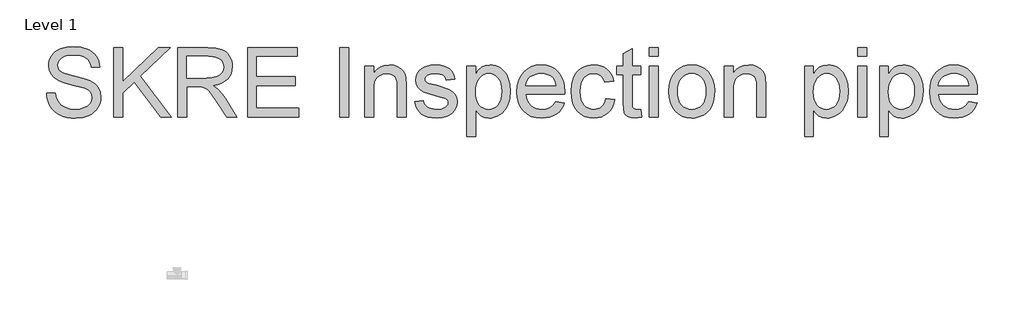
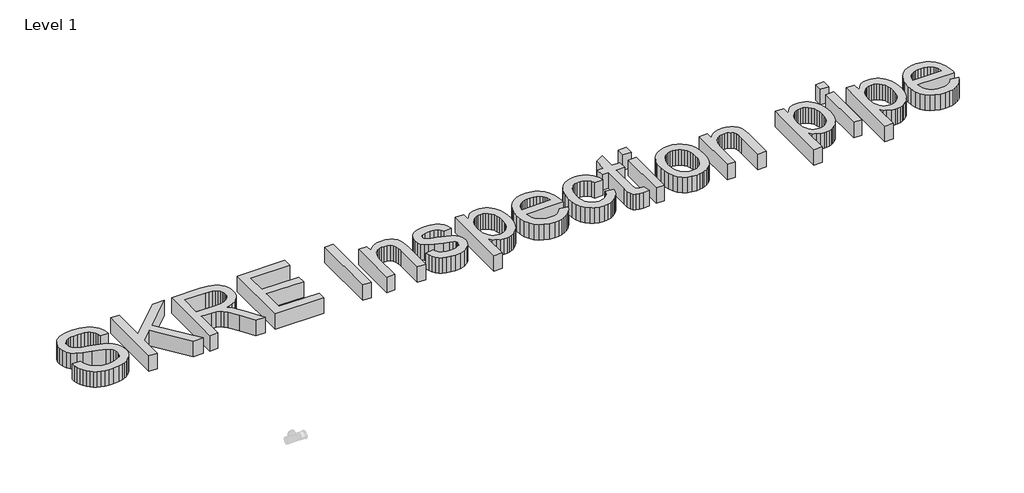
# One storey, part 19 of 29: 1 proxy.
"""IFC4 building model written with IfcOpenShell, lengths in millimetres."""

from ifc_helpers import new_model, si_unit, origin, origin_with_axes, place, context, project, spatial, polyline, outline, extrude, element, save

model = new_model("IFC4")

# Units and contexts
model_context = context("Model", 3, world=origin())
ifc_project = project(units=[si_unit("LENGTHUNIT", "METRE", prefix="MILLI")], contexts=[model_context])

# Site, building, storey
site = spatial("IfcSite", under=ifc_project)
building = spatial("IfcBuilding", under=site)
storey = spatial("IfcBuildingStorey", under=building, Name="Level 1", Elevation=0.0)

# Proxy
placement = place(None, origin())
element("IfcBuildingElementProxy", 1, Name="600mm Arial", ObjectType="600mm Arial", at=placement, inside=storey, context=model_context, shape_type="SweptSolid", body=[
    extrude(outline(polyline([(-4588.4302345, 30340.0821647), (-4513.0880019, 30340.0821647), (-4504.442775, 30298.2723759), (-4488.8077902, 30264.6663557), (-4464.4172139, 30237.994911), (-4429.5052126, 30216.9888491), (-4386.8309011, 30203.3588212), (-4339.1533946, 30198.8154785), (-4297.1780589, 30202.2551752), (-4260.4266476, 30212.5742651), (-4230.6466001, 30228.9082257), (-4209.5853559, 30250.3925342), (-4197.0589739, 30275.059022), (-4192.8835133, 30300.9395204), (-4196.0105102, 30326.1578311), (-4205.3915011, 30347.9548394), (-4224.4477885, 30366.5512742), (-4256.6006748, 30382.1678649), (-4366.3030858, 30410.9362369), (-4438.3159864, 30429.9741302), (-4484.3932063, 30448.0923184), (-4521.8987757, 30473.4393879), (-4548.4782498, 30504.1575345), (-4564.3155697, 30539.5845706), (-4569.5946763, 30579.0583087), (-4567.9622, 30601.4945119), (-4563.0647709, 30623.1857541), (-4554.9023892, 30644.1320352), (-4543.4750547, 30664.3333552), (-4528.9115262, 30682.9665783), (-4511.3405624, 30699.2085684), (-4490.7621633, 30713.0593255), (-4467.1763289, 30724.5188496), (-4414.1645334, 30739.9147111), (-4355.4873552, 30745.046665), (-4291.9173464, 30739.6755878), (-4236.2935887, 30723.5623564), (-4211.9581947, 30711.5602063), (-4190.6026449, 30697.0380646), (-4172.2269393, 30679.9959312), (-4156.8310778, 30660.4338061), (-4144.5346221, 30638.9219064), (-4135.4571338, 30616.0304492), (-4129.5986131, 30591.7594346), (-4126.9590597, 30566.1088625), (-4202.3012924, 30566.1088625), (-4207.3412757, 30590.1499509), (-4216.1336554, 30611.0640423), (-4228.6784314, 30628.8511368), (-4244.9756038, 30643.5112343), (-4265.3286752, 30654.9707584), (-4290.0411482, 30663.1561328), (-4319.1130229, 30668.0673575), (-4352.5442992, 30669.7044323), (-4387.0424333, 30668.0857516), (-4416.5189782, 30663.2297092), (-4440.9739338, 30655.1363053), (-4460.4073002, 30643.8055399), (-4475.2145505, 30630.184709), (-4485.7911578, 30615.2211089), (-4492.1371223, 30598.9147394), (-4494.2524437, 30581.2656007), (-4492.7533246, 30566.0812713), (-4488.2559672, 30552.3132877), (-4480.7603716, 30539.9616497), (-4470.2665376, 30529.0263574), (-4453.7486361, 30518.6704792), (-4427.739379, 30508.2042365), (-4347.2467985, 30486.9406571), (-4264.1790439, 30466.7439356), (-4213.9263634, 30449.122388), (-4170.9761405, 30421.7887558), (-4154.3708669, 30405.7215097), (-4141.012152, 30388.0539768), (-4130.7436458, 30368.8781278), (-4123.4089985, 30348.2859332), (-4117.5412807, 30302.8525067), (-4119.2289393, 30279.2850664), (-4124.2919153, 30256.4074049), (-4132.7302085, 30234.219522), (-4144.5438191, 30212.7214179), (-4159.5258134, 30192.7454256), (-4177.4692577, 30175.123878), (-4198.3741521, 30159.8567752), (-4222.2404965, 30146.9441172), (-4248.3739137, 30136.675611), (-4276.0800265, 30129.3409637), (-4336.2103386, 30123.4732459), (-4374.7505761, 30125.0551385), (-4410.0258609, 30129.8008162), (-4442.036193, 30137.7102791), (-4470.7815724, 30148.7835272), (-4496.4367431, 30163.0389545), (-4519.1764489, 30180.4949552), (-4539.0006899, 30201.1515292), (-4555.9094661, 30225.0086766), (-4569.530297, 30251.2938451), (-4579.490702, 30279.2344827), (-4585.7906812, 30308.8305892), (-4588.4302345, 30340.0821647)])), origin_with_axes(), (0.0, 0.0, 1.0), 150.0),
    extrude(outline(polyline([(-4004.5279318, 30132.891025), (-4004.5279318, 30735.6288859), (-3929.1856991, 30735.6288859), (-3929.1856991, 30440.5875257), (-3620.1648232, 30735.6288859), (-3514.8034198, 30735.6288859), (-3774.2338028, 30487.8235739), (-3505.3856407, 30132.891025), (-3597.5032923, 30132.891025), (-3827.6502685, 30436.9087058), (-3929.1856991, 30340.0821647), (-3929.1856991, 30132.891025), (-4004.5279318, 30132.891025)])), origin_with_axes(), (0.0, 0.0, 1.0), 150.0),
    extrude(outline(polyline([(-3448.8789662, 30132.891025), (-3448.8789662, 30735.6288859), (-3189.1542776, 30735.6288859), (-3119.3486691, 30731.5637898), (-3068.5625596, 30719.3685017), (-3048.9636463, 30709.6748111), (-3031.4432663, 30696.8541236), (-3016.0014196, 30680.9064391), (-3002.6381061, 30661.8317576), (-2991.8545651, 30640.6555503), (-2984.1520358, 30618.4032881), (-2979.5305183, 30595.0749711), (-2977.9900124, 30570.6705992), (-2980.5421938, 30539.7133293), (-2988.1987378, 30511.2944452), (-3000.9596445, 30485.4139469), (-3018.8249139, 30462.0718343), (-3042.0244722, 30442.0130685), (-3070.7882457, 30425.9826105), (-3105.1162344, 30413.9804604), (-3145.0084382, 30406.0066182), (-3120.1764035, 30389.7830222), (-3102.186974, 30373.7801554), (-3071.3216746, 30337.1758969), (-3041.1185628, 30296.2306308), (-2940.6132017, 30132.891025), (-3028.1691166, 30132.891025), (-3106.6015579, 30257.8237505), (-3163.2553852, 30340.5236231), (-3184.3166294, 30364.6382878), (-3203.0602171, 30379.5926909), (-3238.8919234, 30393.9400888), (-3282.5963044, 30396.5888391), (-3373.5367336, 30396.5888391), (-3373.5367336, 30132.891025), (-3448.8789662, 30132.891025)]), holes=[polyline([(-3373.5367336, 30471.9310717), (-3204.899627, 30471.9310717), (-3156.4679624, 30474.5982162), (-3118.8888166, 30482.5996496), (-3090.5986911, 30496.4688008), (-3070.0340876, 30516.7390987), (-3057.5077057, 30541.2584337), (-3053.332245, 30567.8746961), (-3055.3234063, 30587.1425156), (-3061.2968902, 30604.6261074), (-3071.2526967, 30620.3254715), (-3085.1908258, 30634.240608), (-3103.4331742, 30645.6357528), (-3126.3016388, 30653.7751419), (-3153.7962194, 30658.6587754), (-3185.9169161, 30660.2866533), (-3373.5367336, 30660.2866533), (-3373.5367336, 30471.9310717)])]), origin_with_axes(), (0.0, 0.0, 1.0), 150.0),
    extrude(outline(polyline([(-2846.1411053, 30132.891025), (-2846.1411053, 30735.6288859), (-2412.9232678, 30735.6288859), (-2412.9232678, 30660.2866533), (-2770.7988727, 30660.2866533), (-2770.7988727, 30481.3488508), (-2431.758826, 30481.3488508), (-2431.758826, 30406.0066182), (-2770.7988727, 30406.0066182), (-2770.7988727, 30208.2332576), (-2403.5054887, 30208.2332576), (-2403.5054887, 30132.891025), (-2846.1411053, 30132.891025)])), origin_with_axes(), (0.0, 0.0, 1.0), 150.0),
    extrude(outline(polyline([(-2045.6298838, 30132.891025), (-2045.6298838, 30735.6288859), (-1970.2876512, 30735.6288859), (-1970.2876512, 30132.891025), (-2045.6298838, 30132.891025)])), origin_with_axes(), (0.0, 0.0, 1.0), 150.0),
    extrude(outline(polyline([(-1829.0209651, 30132.891025), (-1829.0209651, 30575.5266416), (-1753.6787325, 30575.5266416), (-1753.6787325, 30513.7224664), (-1727.5039285, 30544.8820714), (-1696.068412, 30567.1389321), (-1659.372183, 30580.4930485), (-1617.4152415, 30584.9444207), (-1580.277554, 30581.3575712), (-1546.2668636, 30570.5970228), (-1517.9031618, 30554.0055449), (-1497.7064402, 30532.9259065), (-1484.0028359, 30507.4132902), (-1475.1184857, 30477.5228781), (-1471.1453602, 30404.682243), (-1471.1453602, 30132.891025), (-1546.4875928, 30132.891025), (-1546.4875928, 30394.5286999), (-1548.6580966, 30433.4874032), (-1555.1696079, 30461.1889175), (-1567.180955, 30481.0361511), (-1585.8509663, 30496.4320126), (-1609.7816901, 30506.3096442), (-1637.5751748, 30509.602188), (-1660.4528364, 30507.753581), (-1681.7026201, 30502.2077599), (-1701.324526, 30492.9647248), (-1719.3185541, 30480.0244756), (-1734.3511321, 30461.9154844), (-1745.0886879, 30437.1662232), (-1751.5312213, 30405.776692), (-1753.6787325, 30367.7468907), (-1753.6787325, 30132.891025), (-1829.0209651, 30132.891025)])), origin_with_axes(), (0.0, 0.0, 1.0), 150.0),
    extrude(outline(polyline([(-1395.8031276, 30264.739932), (-1320.4608949, 30274.1577111), (-1315.9083553, 30256.977622), (-1308.5783065, 30241.9312483), (-1298.4707487, 30229.0185903), (-1285.5856818, 30218.2396479), (-1269.8863177, 30209.7415738), (-1251.335868, 30203.6715209), (-1205.6817124, 30198.8154785), (-1160.5793798, 30203.2668507), (-1143.0498028, 30208.8310658), (-1128.8679519, 30216.6209671), (-1110.1059701, 30235.97156), (-1105.4154747, 30246.8056848), (-1103.8519762, 30258.4123617), (-1105.4246717, 30268.5842989), (-1110.1427583, 30277.6158019), (-1129.0151047, 30292.2575053), (-1157.2316537, 30301.8224372), (-1206.5646292, 30313.7418138), (-1275.3217741, 30333.6258356), (-1320.0194365, 30350.6035897), (-1348.7326263, 30369.1264482), (-1369.5363531, 30393.6457832), (-1382.1730996, 30422.5980962), (-1386.3853485, 30454.4198888), (-1383.0008341, 30483.6113251), (-1372.8472911, 30510.5586812), (-1356.8444243, 30534.1950994), (-1335.9119387, 30553.4537219), (-1315.1082119, 30565.5754336), (-1288.013703, 30575.7473708), (-1256.6885511, 30582.6451582), (-1223.1928954, 30584.9444207), (-1174.1542255, 30581.2472066), (-1131.5167022, 30570.1555644), (-1097.2301003, 30552.7547461), (-1073.2441942, 30530.1300034), (-1057.351692, 30500.6074733), (-1047.3453017, 30462.5132927), (-1122.6875343, 30453.0955136), (-1132.1972839, 30476.8055082), (-1151.014448, 30494.666179), (-1179.3229675, 30505.8681858), (-1217.3067835, 30509.602188), (-1260.5697061, 30506.0337327), (-1289.4116546, 30495.3283666), (-1305.6352505, 30479.8773228), (-1311.0431159, 30462.0718343), (-1308.7990357, 30450.4835514), (-1302.0667952, 30440.1460673), (-1290.5520887, 30430.9122293), (-1273.9606108, 30423.5178012), (-1209.0662268, 30407.4781462), (-1098.4808991, 30372.0143218), (-1069.2710686, 30355.0549619), (-1047.1245725, 30331.841608), (-1033.1634508, 30302.3006838), (-1028.5097436, 30266.3586128), (-1033.9727912, 30229.2025313), (-1050.3619341, 30194.2537418), (-1077.0517728, 30164.2529651), (-1113.4169081, 30141.9409221), (-1157.3420183, 30128.0901649), (-1206.711782, 30123.4732459), (-1247.261575, 30125.698932), (-1282.679414, 30132.3759902), (-1312.9652993, 30143.5044205), (-1338.1192307, 30159.084223), (-1358.6654401, 30179.0418213), (-1375.1281594, 30203.3036389), (-1387.5073886, 30231.8696758), (-1395.8031276, 30264.739932)])), origin_with_axes(), (0.0, 0.0, 1.0), 150.0),
    extrude(outline(polyline([(-943.7497319, 29963.3710016), (-943.7497319, 30575.5266416), (-868.4074993, 30575.5266416), (-868.4074993, 30501.6559369), (-843.832982, 30538.0946486), (-816.3154088, 30564.1222997), (-784.2360988, 30579.7388904), (-745.9763713, 30584.9444207), (-719.7003998, 30583.1234048), (-695.0247149, 30577.6603571), (-671.9493168, 30568.5552778), (-650.4742053, 30555.8081666), (-631.0684301, 30539.7501175), (-614.2010406, 30520.7122243), (-599.8720369, 30498.6944869), (-588.0814189, 30473.6969053), (-572.2992814, 30418.1835122), (-567.0385688, 30357.5933476), (-572.979863, 30293.1588162), (-580.4064808, 30263.4937318), (-590.8037457, 30235.5301016), (-604.0291034, 30209.9990912), (-619.9399997, 30187.6318659), (-638.5364346, 30168.4284257), (-659.818408, 30152.3887707), (-682.7420548, 30139.7382286), (-706.2635099, 30130.7021271), (-730.3827732, 30125.2804662), (-755.0998448, 30123.4732459), (-789.7359346, 30128.3108941), (-820.6564163, 30142.8238388), (-847.1255258, 30164.7312117), (-868.4074993, 30191.7521442), (-868.4074993, 29963.3710016), (-943.7497319, 29963.3710016)]), holes=[polyline([(-868.4074993, 30350.6771661), (-866.3703527, 30314.3672132), (-860.2589131, 30283.1340318), (-850.0731803, 30256.977622), (-835.8131545, 30235.8979836), (-818.6468609, 30219.6743876), (-799.7423249, 30208.0861048), (-779.0995464, 30201.1331351), (-756.7185255, 30198.8154785), (-734.0156079, 30201.2159085), (-712.9957504, 30208.4171986), (-693.658953, 30220.4193487), (-676.0052158, 30237.2223588), (-661.2945345, 30259.0653523), (-650.786905, 30286.1874524), (-644.4823273, 30318.5886591), (-642.3808014, 30356.2689724), (-644.4317436, 30392.2662257), (-650.5845699, 30423.4442248), (-660.8392805, 30449.8029697), (-675.1958754, 30471.3424605), (-692.4035557, 30488.0810913), (-711.2115227, 30500.0372562), (-731.6197764, 30507.2109551), (-753.6283168, 30509.602188), (-775.5678793, 30507.0592037), (-796.2106577, 30499.4302509), (-815.5566521, 30486.7153294), (-833.6058625, 30468.9144394), (-848.8315786, 30446.266704), (-859.7070901, 30419.0112467), (-866.232397, 30387.1480674), (-868.4074993, 30350.6771661)])]), origin_with_axes(), (0.0, 0.0, 1.0), 150.0),
    extrude(outline(polyline([(-172.3747644, 30264.739932), (-98.5040598, 30255.322153), (-109.8302267, 30225.7352435), (-125.1203221, 30199.6616071), (-144.374346, 30177.1012437), (-167.5922985, 30158.0541534), (-194.5350561, 30142.9250064), (-224.9634956, 30132.1184728), (-258.877617, 30125.6345526), (-296.2774204, 30123.4732459), (-343.0260249, 30127.2026496), (-384.6794638, 30138.3908608), (-421.2377371, 30157.0378794), (-452.7008447, 30183.1437055), (-478.0019289, 30215.9817721), (-496.074132, 30254.8255123), (-506.9174538, 30299.674926), (-510.5318944, 30350.5300133), (-506.8806656, 30403.1095475), (-495.9269792, 30449.4534818), (-477.6708351, 30489.5618164), (-452.1122335, 30523.4345511), (-420.7318993, 30550.345119), (-385.0105576, 30569.5669533), (-344.9482083, 30581.1000538), (-300.5448515, 30584.9444207), (-257.571636, 30581.1092509), (-218.7095017, 30569.6037415), (-183.9584487, 30550.4278925), (-153.318477, 30523.5817039), (-128.3070999, 30489.7825455), (-110.4418305, 30449.7477874), (-99.7226689, 30403.4774295), (-96.149615, 30350.9714717), (-96.5910734, 30330.6643856), (-435.1896618, 30330.6643856), (-430.8256616, 30300.5992295), (-422.148245, 30274.2680757), (-409.1574121, 30251.6709242), (-391.8531627, 30232.8077749), (-371.1919902, 30217.9361452), (-348.1303876, 30207.3135526), (-322.668355, 30200.939997), (-294.8058924, 30198.8154785), (-254.7067549, 30202.7518159), (-220.9351878, 30214.5608279), (-193.4911909, 30234.9782786), (-172.3747644, 30264.739932)]), holes=[polyline([(-435.1896618, 30406.0066182), (-171.4918476, 30406.0066182), (-181.6821789, 30445.8114501), (-190.4469674, 30461.464829), (-201.6581712, 30474.2855165), (-222.2043806, 30489.7365603), (-245.5832814, 30500.7730202), (-271.7948736, 30507.3948961), (-300.8391571, 30509.602188), (-327.3312593, 30507.840953), (-351.6252665, 30502.5572478), (-373.7211789, 30493.7510726), (-393.6189963, 30481.4224272), (-410.3162404, 30466.1415288), (-422.8104326, 30448.4785945), (-431.1015731, 30428.4336243), (-435.1896618, 30406.0066182)])]), origin_with_axes(), (0.0, 0.0, 1.0), 150.0),
    extrude(outline(polyline([(261.7259899, 30292.9932693), (337.0682225, 30283.5754902), (328.8736511, 30248.0242939), (316.0621606, 30216.5657848), (298.6337511, 30189.1999629), (276.5884225, 30165.9268281), (250.855077, 30147.3533859), (222.3626164, 30134.0866415), (191.1110409, 30126.1265948), (157.1003505, 30123.4732459), (114.8445048, 30127.1750585), (76.9572578, 30138.2804962), (43.4386095, 30156.7895591), (14.28856, 30182.7022471), (-9.3064715, 30215.5311167), (-26.1600654, 30254.7887241), (-36.2722218, 30300.4750694), (-39.6429405, 30352.5901525), (-33.8855873, 30419.6366461), (-26.6888958, 30449.8075682), (-16.6135276, 30477.7436073), (-3.590505, 30502.8837431), (12.44915, 30524.6669557), (31.5054373, 30543.0932452), (53.578357, 30558.1626114), (77.6700292, 30569.8796529), (102.7825739, 30578.2489683), (128.9159911, 30583.2705576), (156.0702809, 30584.9444207), (189.4969587, 30582.6451582), (219.7322602, 30575.7473708), (246.7761853, 30564.2510584), (270.6287342, 30548.1562211), (290.8852366, 30527.8307409), (307.1410222, 30503.6424997), (319.3960912, 30475.5914976), (327.6504434, 30443.6777345), (252.3082108, 30434.2599554), (238.6413947, 30467.1302117), (217.3594213, 30490.6930535), (189.639513, 30504.8749044), (156.6588921, 30509.602188), (131.0589038, 30507.2753344), (107.96971, 30500.2947736), (87.3913109, 30488.6605055), (69.3237064, 30472.3725301), (54.6130252, 30451.0537685), (44.1053957, 30424.3271416), (37.800818, 30392.1926493), (35.6992921, 30354.6502917), (37.7548327, 30316.5423155), (43.9214547, 30284.0353427), (54.1991579, 30257.1293733), (68.5879424, 30235.8244072), (86.296862, 30219.6330009), (106.5349702, 30208.0677107), (129.3022672, 30201.1285366), (154.5987529, 30198.8154785), (193.6126385, 30204.5912258), (210.4846265, 30211.81091), (225.599978, 30221.9184678), (238.5356286, 30235.0242639), (248.8685142, 30251.2386628), (256.5986346, 30270.5616646), (261.7259899, 30292.9932693)])), origin_with_axes(), (0.0, 0.0, 1.0), 150.0),
    extrude(outline(polyline([(563.0949204, 30195.7252698), (572.5126994, 30130.683733), (516.1531778, 30123.4732459), (479.9903777, 30126.6002429), (453.0246274, 30135.9812337), (433.9683401, 30150.4389961), (421.5339286, 30168.7963077), (414.6913235, 30200.3237947), (412.4104551, 30254.2920834), (412.4104551, 30500.184409), (355.9037807, 30500.184409), (355.9037807, 30575.5266416), (412.4104551, 30575.5266416), (412.4104551, 30683.095337), (487.7526877, 30727.3883292), (487.7526877, 30575.5266416), (563.0949204, 30575.5266416), (563.0949204, 30500.184409), (487.7526877, 30500.184409), (487.7526877, 30256.4993754), (491.7258133, 30217.6510367), (504.6016831, 30203.89225), (515.4725961, 30200.0846714), (530.2798464, 30198.8154785), (563.0949204, 30195.7252698)])), origin_with_axes(), (0.0, 0.0, 1.0), 150.0),
    extrude(outline(polyline([(638.437153, 30660.2866533), (638.437153, 30735.6288859), (713.7793856, 30735.6288859), (713.7793856, 30660.2866533), (638.437153, 30660.2866533)])), origin_with_axes(), (0.0, 0.0, 1.0), 150.0),
    extrude(outline(polyline([(638.437153, 30132.891025), (638.437153, 30575.5266416), (713.7793856, 30575.5266416), (713.7793856, 30132.891025), (638.437153, 30132.891025)])), origin_with_axes(), (0.0, 0.0, 1.0), 150.0),
    extrude(outline(polyline([(807.9571764, 30354.2088333), (812.0314694, 30411.5340452), (824.2543487, 30460.9314001), (844.6258142, 30502.400898), (873.1458659, 30535.9425389), (901.8590556, 30557.3808622), (933.5520895, 30572.6939502), (968.2249675, 30581.881803), (1005.8776898, 30584.9444207), (1047.4437567, 30581.2150169), (1085.027501, 30570.0268057), (1118.6289228, 30551.3797871), (1148.2480219, 30525.273961), (1172.4224675, 30492.5922443), (1189.6899286, 30454.2175537), (1200.0504053, 30410.1498892), (1203.5038976, 30360.3892508), (1201.9771873, 30320.0601871), (1197.3970564, 30284.274466), (1189.763505, 30253.0320876), (1179.0765331, 30226.3330518), (1165.4694978, 30203.2714492), (1149.0757564, 30182.9413704), (1129.8953089, 30165.3428155), (1107.9281552, 30150.4757843), (1084.0296211, 30138.6621738), (1059.0550322, 30130.2238805), (1033.0043884, 30125.1609046), (1005.8776898, 30123.4732459), (963.7046175, 30127.1888541), (925.7713853, 30138.3356785), (892.0779931, 30156.9137193), (862.6244408, 30182.9229763), (838.7075126, 30215.9219913), (821.6239925, 30255.4693058), (811.3738804, 30301.5649198), (807.9571764, 30354.2088333)]), holes=[polyline([(883.299409, 30354.3559861), (885.4791098, 30317.8115084), (892.0182122, 30286.1690583), (902.9167164, 30259.4286357), (918.1746221, 30237.5902408), (936.7342688, 30220.6262823), (957.5379956, 30208.5091691), (980.5858026, 30201.2389012), (1005.8776898, 30198.8154785), (1031.0408182, 30201.2526967), (1053.9966547, 30208.5643514), (1074.7451993, 30220.7504425), (1093.2864518, 30237.81097), (1108.5443576, 30259.8654956), (1119.4428617, 30287.033581), (1125.9819641, 30319.315226), (1128.161665, 30356.7104308), (1125.9681686, 30392.0960803), (1119.3876794, 30422.9107959), (1108.4201974, 30449.1545777), (1093.0657226, 30470.8274257), (1074.4554922, 30487.7913843), (1053.7207432, 30499.9084975), (1030.8614758, 30507.1787654), (1005.8776898, 30509.602188), (980.5858026, 30507.1879624), (957.5379956, 30499.9452857), (936.7342688, 30487.8741577), (918.1746221, 30470.9745785), (902.9167164, 30449.200563), (892.0182122, 30422.5061257), (885.4791098, 30390.8912667), (883.299409, 30354.3559861)])]), origin_with_axes(), (0.0, 0.0, 1.0), 150.0),
    extrude(outline(polyline([(1288.2639093, 30132.891025), (1288.2639093, 30575.5266416), (1363.6061419, 30575.5266416), (1363.6061419, 30513.7224664), (1389.7809458, 30544.8820714), (1421.2164623, 30567.1389321), (1457.9126913, 30580.4930485), (1499.8696329, 30584.9444207), (1537.0073203, 30581.3575712), (1571.0180107, 30570.5970228), (1599.3817126, 30554.0055449), (1619.5784341, 30532.9259065), (1633.2820384, 30507.4132902), (1642.1663886, 30477.5228781), (1646.1395142, 30404.682243), (1646.1395142, 30132.891025), (1570.7972815, 30132.891025), (1570.7972815, 30394.5286999), (1568.6267778, 30433.4874032), (1562.1152665, 30461.1889175), (1550.1039193, 30481.0361511), (1531.4339081, 30496.4320126), (1507.5031843, 30506.3096442), (1479.7096995, 30509.602188), (1456.832038, 30507.753581), (1435.5822542, 30502.2077599), (1415.9603483, 30492.9647248), (1397.9663202, 30480.0244756), (1382.9337422, 30461.9154844), (1372.1961865, 30437.1662232), (1365.753653, 30405.776692), (1363.6061419, 30367.7468907), (1363.6061419, 30132.891025), (1288.2639093, 30132.891025)])), origin_with_axes(), (0.0, 0.0, 1.0), 150.0),
    extrude(outline(polyline([(1985.1795609, 29963.3710016), (1985.1795609, 30575.5266416), (2060.5217935, 30575.5266416), (2060.5217935, 30501.6559369), (2085.0963108, 30538.0946486), (2112.613884, 30564.1222997), (2144.693194, 30579.7388904), (2182.9529215, 30584.9444207), (2209.228893, 30583.1234048), (2233.9045779, 30577.6603571), (2256.979976, 30568.5552778), (2278.4550875, 30555.8081666), (2297.8608627, 30539.7501175), (2314.7282522, 30520.7122243), (2329.0572559, 30498.6944869), (2340.8478739, 30473.6969053), (2356.6300114, 30418.1835122), (2361.890724, 30357.5933476), (2355.9494298, 30293.1588162), (2348.522812, 30263.4937318), (2338.1255471, 30235.5301016), (2324.9001894, 30209.9990912), (2308.9892931, 30187.6318659), (2290.3928582, 30168.4284257), (2269.1108848, 30152.3887707), (2246.187238, 30139.7382286), (2222.6657829, 30130.7021271), (2198.5465196, 30125.2804662), (2173.829448, 30123.4732459), (2139.1933582, 30128.3108941), (2108.2728765, 30142.8238388), (2081.803767, 30164.7312117), (2060.5217935, 30191.7521442), (2060.5217935, 29963.3710016), (1985.1795609, 29963.3710016)]), holes=[polyline([(2060.5217935, 30350.6771661), (2062.5589401, 30314.3672132), (2068.6703797, 30283.1340318), (2078.8561125, 30256.977622), (2093.1161383, 30235.8979836), (2110.2824319, 30219.6743876), (2129.1869679, 30208.0861048), (2149.8297464, 30201.1331351), (2172.2107673, 30198.8154785), (2194.9136849, 30201.2159085), (2215.9335424, 30208.4171986), (2235.2703398, 30220.4193487), (2252.924077, 30237.2223588), (2267.6347583, 30259.0653523), (2278.1423878, 30286.1874524), (2284.4469655, 30318.5886591), (2286.5484914, 30356.2689724), (2284.4975492, 30392.2662257), (2278.3447229, 30423.4442248), (2268.0900123, 30449.8029697), (2253.7334174, 30471.3424605), (2236.5257371, 30488.0810913), (2217.7177701, 30500.0372562), (2197.3095164, 30507.2109551), (2175.300976, 30509.602188), (2153.3614135, 30507.0592037), (2132.7186351, 30499.4302509), (2113.3726407, 30486.7153294), (2095.3234303, 30468.9144394), (2080.0977142, 30446.266704), (2069.2222027, 30419.0112467), (2062.6968958, 30387.1480674), (2060.5217935, 30350.6771661)])]), origin_with_axes(), (0.0, 0.0, 1.0), 150.0),
    extrude(outline(polyline([(2446.6507357, 30660.2866533), (2446.6507357, 30735.6288859), (2521.9929683, 30735.6288859), (2521.9929683, 30660.2866533), (2446.6507357, 30660.2866533)])), origin_with_axes(), (0.0, 0.0, 1.0), 150.0),
    extrude(outline(polyline([(2446.6507357, 30132.891025), (2446.6507357, 30575.5266416), (2521.9929683, 30575.5266416), (2521.9929683, 30132.891025), (2446.6507357, 30132.891025)])), origin_with_axes(), (0.0, 0.0, 1.0), 150.0),
    extrude(outline(polyline([(2635.0063172, 29963.3710016), (2635.0063172, 30575.5266416), (2710.3485498, 30575.5266416), (2710.3485498, 30501.6559369), (2734.9230671, 30538.0946486), (2762.4406403, 30564.1222997), (2794.5199503, 30579.7388904), (2832.7796778, 30584.9444207), (2859.0556493, 30583.1234048), (2883.7313341, 30577.6603571), (2906.8067323, 30568.5552778), (2928.2818438, 30555.8081666), (2947.687619, 30539.7501175), (2964.5550085, 30520.7122243), (2978.8840122, 30498.6944869), (2990.6746301, 30473.6969053), (3006.4567677, 30418.1835122), (3011.7174803, 30357.5933476), (3005.776186, 30293.1588162), (2998.3495683, 30263.4937318), (2987.9523034, 30235.5301016), (2974.7269456, 30209.9990912), (2958.8160494, 30187.6318659), (2940.2196145, 30168.4284257), (2918.9376411, 30152.3887707), (2896.0139943, 30139.7382286), (2872.4925392, 30130.7021271), (2848.3732759, 30125.2804662), (2823.6562043, 30123.4732459), (2789.0201145, 30128.3108941), (2758.0996328, 30142.8238388), (2731.6305232, 30164.7312117), (2710.3485498, 30191.7521442), (2710.3485498, 29963.3710016), (2635.0063172, 29963.3710016)]), holes=[polyline([(2710.3485498, 30350.6771661), (2712.3856964, 30314.3672132), (2718.497136, 30283.1340318), (2728.6828687, 30256.977622), (2742.9428946, 30235.8979836), (2760.1091882, 30219.6743876), (2779.0137242, 30208.0861048), (2799.6565027, 30201.1331351), (2822.0375235, 30198.8154785), (2844.7404412, 30201.2159085), (2865.7602987, 30208.4171986), (2885.097096, 30220.4193487), (2902.7508333, 30237.2223588), (2917.4615146, 30259.0653523), (2927.9691441, 30286.1874524), (2934.2737217, 30318.5886591), (2936.3752476, 30356.2689724), (2934.3243055, 30392.2662257), (2928.1714792, 30423.4442248), (2917.9167685, 30449.8029697), (2903.5601737, 30471.3424605), (2886.3524934, 30488.0810913), (2867.5445263, 30500.0372562), (2847.1362727, 30507.2109551), (2825.1277323, 30509.602188), (2803.1881698, 30507.0592037), (2782.5453914, 30499.4302509), (2763.1993969, 30486.7153294), (2745.1501866, 30468.9144394), (2729.9244705, 30446.266704), (2719.048959, 30419.0112467), (2712.5236521, 30387.1480674), (2710.3485498, 30350.6771661)])]), origin_with_axes(), (0.0, 0.0, 1.0), 150.0),
    extrude(outline(polyline([(3406.3812847, 30264.739932), (3480.2519893, 30255.322153), (3468.9258224, 30225.7352435), (3453.635727, 30199.6616071), (3434.381703, 30177.1012437), (3411.1637506, 30158.0541534), (3384.220993, 30142.9250064), (3353.7925535, 30132.1184728), (3319.878432, 30125.6345526), (3282.4786287, 30123.4732459), (3235.7300242, 30127.2026496), (3194.0765853, 30138.3908608), (3157.518312, 30157.0378794), (3126.0552044, 30183.1437055), (3100.7541201, 30215.9817721), (3082.6819171, 30254.8255123), (3071.8385953, 30299.674926), (3068.2241547, 30350.5300133), (3071.8753835, 30403.1095475), (3082.8290699, 30449.4534818), (3101.0852139, 30489.5618164), (3126.6438156, 30523.4345511), (3158.0241497, 30550.345119), (3193.7454915, 30569.5669533), (3233.8078407, 30581.1000538), (3278.2111976, 30584.9444207), (3321.1844131, 30581.1092509), (3360.0465474, 30569.6037415), (3394.7976004, 30550.4278925), (3425.437572, 30523.5817039), (3450.4489492, 30489.7825455), (3468.3142186, 30449.7477874), (3479.0333802, 30403.4774295), (3482.6064341, 30350.9714717), (3482.1649757, 30330.6643856), (3143.5663873, 30330.6643856), (3147.9303875, 30300.5992295), (3156.6078041, 30274.2680757), (3169.598637, 30251.6709242), (3186.9028864, 30232.8077749), (3207.5640589, 30217.9361452), (3230.6256615, 30207.3135526), (3256.0876941, 30200.939997), (3283.9501567, 30198.8154785), (3324.0492942, 30202.7518159), (3357.8208613, 30214.5608279), (3385.2648582, 30234.9782786), (3406.3812847, 30264.739932)]), holes=[polyline([(3143.5663873, 30406.0066182), (3407.2642015, 30406.0066182), (3397.0738702, 30445.8114501), (3388.3090817, 30461.464829), (3377.0978779, 30474.2855165), (3356.5516684, 30489.7365603), (3333.1727676, 30500.7730202), (3306.9611755, 30507.3948961), (3277.916892, 30509.602188), (3251.4247898, 30507.840953), (3227.1307825, 30502.5572478), (3205.0348702, 30493.7510726), (3185.1370528, 30481.4224272), (3168.4398087, 30466.1415288), (3155.9456165, 30448.4785945), (3147.654476, 30428.4336243), (3143.5663873, 30406.0066182)])]), origin_with_axes(), (0.0, 0.0, 1.0), 150.0),
])

save(model, "model.ifc")
